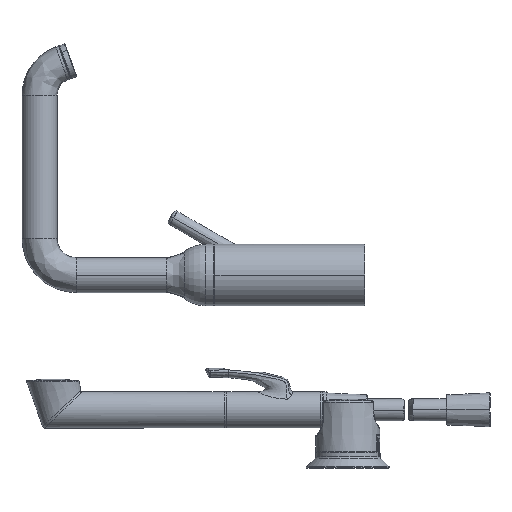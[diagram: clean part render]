
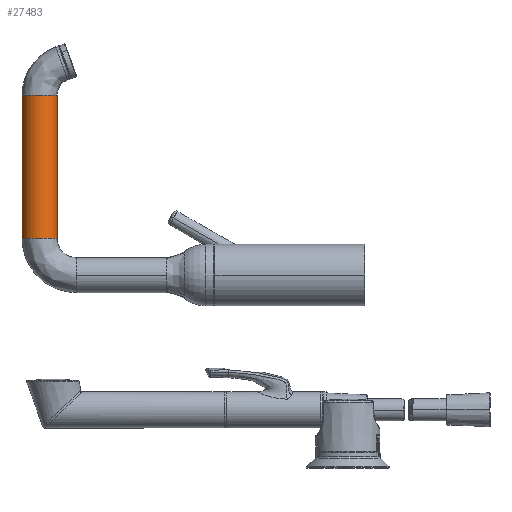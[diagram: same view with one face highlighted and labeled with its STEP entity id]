
A CAD part, left-side view. The second image highlights one B-rep face of the part: STEP entity #27483.
In plain terms, the highlighted cylindrical face has radius 12 mm (diameter 24 mm), a partial arc.
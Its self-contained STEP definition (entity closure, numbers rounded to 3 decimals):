
#184 = AXIS2_PLACEMENT_3D ( 'NONE', #31750, #17058, #21594 ) ;
#291 = CARTESIAN_POINT ( 'NONE',  ( 0., 210.4, 123. ) ) ;
#447 = CARTESIAN_POINT ( 'NONE',  ( 0., 234.4, 25. ) ) ;
#2694 = LINE ( 'NONE', #5926, #15357 ) ;
#3557 = DIRECTION ( 'NONE',  ( 0., 0., 1. ) ) ;
#4155 = ORIENTED_EDGE ( 'NONE', *, *, #19965, .T. ) ;
#5748 = ORIENTED_EDGE ( 'NONE', *, *, #10764, .F. ) ;
#5822 = FACE_OUTER_BOUND ( 'NONE', #20559, .T. ) ;
#5926 = CARTESIAN_POINT ( 'NONE',  ( 0., 210.4, 25. ) ) ;
#7180 = VERTEX_POINT ( 'NONE', #291 ) ;
#7867 = CARTESIAN_POINT ( 'NONE',  ( 0., 210.4, 25. ) ) ;
#8372 = EDGE_CURVE ( 'NONE', #14257, #29437, #8831, .T. ) ;
#8831 = CIRCLE ( 'NONE', #16028, 12. ) ;
#10764 = EDGE_CURVE ( 'NONE', #14257, #25201, #21851, .T. ) ;
#10806 = EDGE_CURVE ( 'NONE', #29437, #7180, #2694, .T. ) ;
#13598 = CARTESIAN_POINT ( 'NONE',  ( 0., 222.4, 25. ) ) ;
#13703 = DIRECTION ( 'NONE',  ( 0., -1., 0. ) ) ;
#13793 = AXIS2_PLACEMENT_3D ( 'NONE', #13598, #15838, #13703 ) ;
#13858 = CARTESIAN_POINT ( 'NONE',  ( 0., 222.4, 25. ) ) ;
#14257 = VERTEX_POINT ( 'NONE', #28674 ) ;
#15357 = VECTOR ( 'NONE', #3557, 1000. ) ;
#15838 = DIRECTION ( 'NONE',  ( 0., 0., 1. ) ) ;
#16028 = AXIS2_PLACEMENT_3D ( 'NONE', #13858, #28739, #16518 ) ;
#16518 = DIRECTION ( 'NONE',  ( 0., -1., 0. ) ) ;
#17058 = DIRECTION ( 'NONE',  ( 0., 0., -1. ) ) ;
#19772 = ORIENTED_EDGE ( 'NONE', *, *, #10806, .T. ) ;
#19965 = EDGE_CURVE ( 'NONE', #7180, #25201, #25797, .T. ) ;
#20559 = EDGE_LOOP ( 'NONE', ( #5748, #31054, #19772, #4155 ) ) ;
#21594 = DIRECTION ( 'NONE',  ( 0., -1., 0. ) ) ;
#21851 = LINE ( 'NONE', #447, #26444 ) ;
#21867 = CYLINDRICAL_SURFACE ( 'NONE', #13793, 12. ) ;
#22690 = DIRECTION ( 'NONE',  ( 0., 0., 1. ) ) ;
#25201 = VERTEX_POINT ( 'NONE', #28798 ) ;
#25797 = CIRCLE ( 'NONE', #184, 12. ) ;
#26444 = VECTOR ( 'NONE', #22690, 1000. ) ;
#27483 = ADVANCED_FACE ( 'NONE', ( #5822 ), #21867, .T. ) ;
#28674 = CARTESIAN_POINT ( 'NONE',  ( 0., 234.4, 25. ) ) ;
#28739 = DIRECTION ( 'NONE',  ( 0., 0., 1. ) ) ;
#28798 = CARTESIAN_POINT ( 'NONE',  ( 0., 234.4, 123. ) ) ;
#29437 = VERTEX_POINT ( 'NONE', #7867 ) ;
#31054 = ORIENTED_EDGE ( 'NONE', *, *, #8372, .T. ) ;
#31750 = CARTESIAN_POINT ( 'NONE',  ( 0., 222.4, 123. ) ) ;
